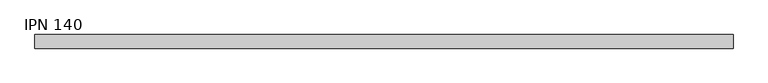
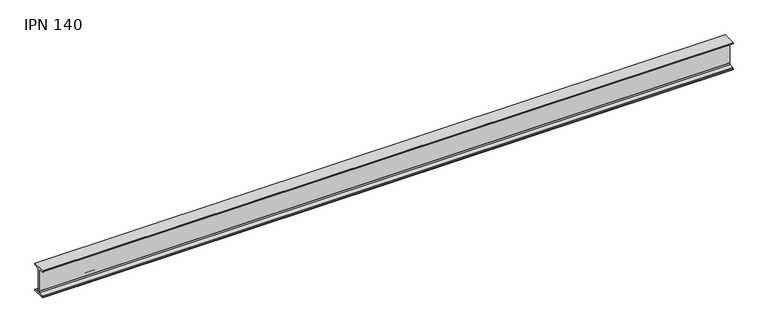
"""IFC4 building model written with IfcOpenShell, lengths in millimetres: beam geometry, IPN - Secciones en I con alas cónicas : IPN 140."""

from ifc_helpers import new_model, si_unit, point, frame, frame_2d, origin, place, context, project, spatial, polyline, circle_curve, trimmed, segment, composite_curve, outline, extrude, source, transform, mapped, element, save


def ipn_140_dc04cb4f(model_context):
    return source(origin(), model_context, "Body", "SweptSolid", [
        extrude(outline(composite_curve([segment(polyline([(33.0, 70.0), (33.0, 66.6671583)]), True, "CONTINUOUS"), segment(trimmed(circle_curve(frame_2d((29.6, 66.6671583)), 3.4), [point((33.0, 66.6671583))], [point((30.0714027, 63.2999964))], False, "CARTESIAN"), True, "CONTINUOUS"), segment(polyline([(30.0714027, 63.2999964), (7.7597073, 60.176359)]), True, "CONTINUOUS"), segment(trimmed(circle_curve(frame_2d((8.55, 54.5314111)), 5.7), [point((7.7597073, 60.176359))], [point((2.85, 54.5314111))], True, "CARTESIAN"), True, "CONTINUOUS"), segment(polyline([(2.85, 54.5314111), (2.85, -54.5314111)]), True, "CONTINUOUS"), segment(trimmed(circle_curve(frame_2d((8.55, -54.5314111)), 5.7), [point((2.85, -54.5314111))], [point((7.7597073, -60.176359))], True, "CARTESIAN"), True, "CONTINUOUS"), segment(polyline([(7.7597073, -60.176359), (30.0714027, -63.2999964)]), True, "CONTINUOUS"), segment(trimmed(circle_curve(frame_2d((29.6, -66.6671583)), 3.4), [point((30.0714027, -63.2999964))], [point((33.0, -66.6671583))], False, "CARTESIAN"), True, "CONTINUOUS"), segment(polyline([(33.0, -66.6671583), (33.0, -70.0), (-33.0, -70.0), (-33.0, -66.6671583)]), True, "CONTINUOUS"), segment(trimmed(circle_curve(frame_2d((-29.6, -66.6671583)), 3.4), [point((-33.0, -66.6671583))], [point((-30.0714027, -63.2999964))], False, "CARTESIAN"), True, "CONTINUOUS"), segment(polyline([(-30.0714027, -63.2999964), (-7.7597073, -60.176359)]), True, "CONTINUOUS"), segment(trimmed(circle_curve(frame_2d((-8.55, -54.5314111)), 5.7), [point((-7.7597073, -60.176359))], [point((-2.85, -54.5314111))], True, "CARTESIAN"), True, "CONTINUOUS"), segment(polyline([(-2.85, -54.5314111), (-2.85, 54.5314111)]), True, "CONTINUOUS"), segment(trimmed(circle_curve(frame_2d((-8.55, 54.5314111)), 5.7), [point((-2.85, 54.5314111))], [point((-7.7597073, 60.176359))], True, "CARTESIAN"), True, "CONTINUOUS"), segment(polyline([(-7.7597073, 60.176359), (-30.0714027, 63.2999964)]), True, "CONTINUOUS"), segment(trimmed(circle_curve(frame_2d((-29.6, 66.6671583)), 3.4), [point((-30.0714027, 63.2999964))], [point((-33.0, 66.6671583))], False, "CARTESIAN"), True, "CONTINUOUS"), segment(polyline([(-33.0, 66.6671583), (-33.0, 70.0), (33.0, 70.0)]), True, "CONTINUOUS")], self_intersect=False)), frame((-1695.5, 0.0, 0.0), z_axis=(1.0, 0.0, 0.0), x_axis=(0.0, 1.0, 0.0)), (0.0, 0.0, 1.0), 3387.0),
    ])


if __name__ == "__main__":
    model = new_model("IFC4")
    model_context = context("Model", 3, world=origin())
    ifc_project = project(units=[si_unit("LENGTHUNIT", "METRE", prefix="MILLI")], contexts=[model_context])
    site = spatial("IfcSite", under=ifc_project)
    building = spatial("IfcBuilding", under=site)
    placement = place(None, origin())
    ipn_140_shape = ipn_140_dc04cb4f(model_context)
    element("IfcBeam", 1, ObjectType="IPN - Secciones en I con alas cónicas : IPN 140", at=placement, inside=building, context=model_context, shape_type="MappedRepresentation", body=[
        mapped(ipn_140_shape, transform((0.0, 0.0, 0.0), x_axis=(1.0, 0.0, 0.0), y_axis=(0.0, 1.0, 0.0), z_axis=(0.0, 0.0, 1.0))),
    ])
    save(model, "model.ifc")
